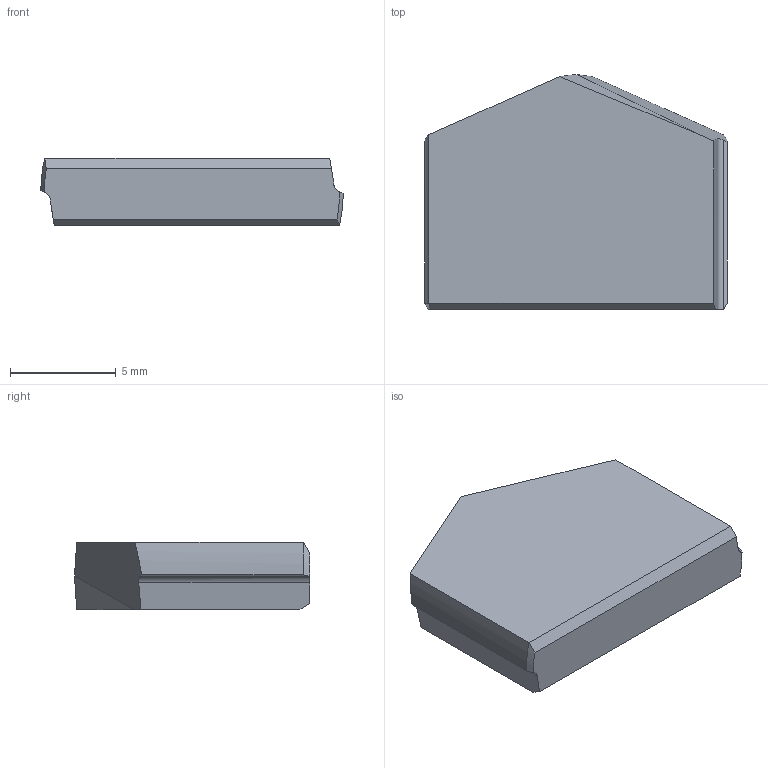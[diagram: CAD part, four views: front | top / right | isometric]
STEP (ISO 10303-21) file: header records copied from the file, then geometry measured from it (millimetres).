
FILE_DESCRIPTION (( 'STEP AP214' ), '1' );
FILE_NAME ('9-16.STEP', '2022-06-24T05:40:10', ( '' ), ( '' ), 'SwSTEP 2.0', 'SolidWorks 2018', '' );
FILE_SCHEMA (( 'AUTOMOTIVE_DESIGN' ));
Length unit declared in the file: millimetre
Products named in the file (1): 9-16
Bounding box: 14.29 x 11.1 x 3.2 mm (x, y, z)
Volume: 417.9 mm3; surface area: 399.4 mm2
Topology: 1 solids, 1 shells, 19 faces, 50 edges, 33 vertices
Faces by surface type: plane 13, cylinder 4, cone 2
Entity records: 620 total; most frequent: CARTESIAN_POINT 133, ORIENTED_EDGE 100, DIRECTION 86, EDGE_CURVE 50, LINE 34, VECTOR 34, VERTEX_POINT 33, AXIS2_PLACEMENT_3D 26
